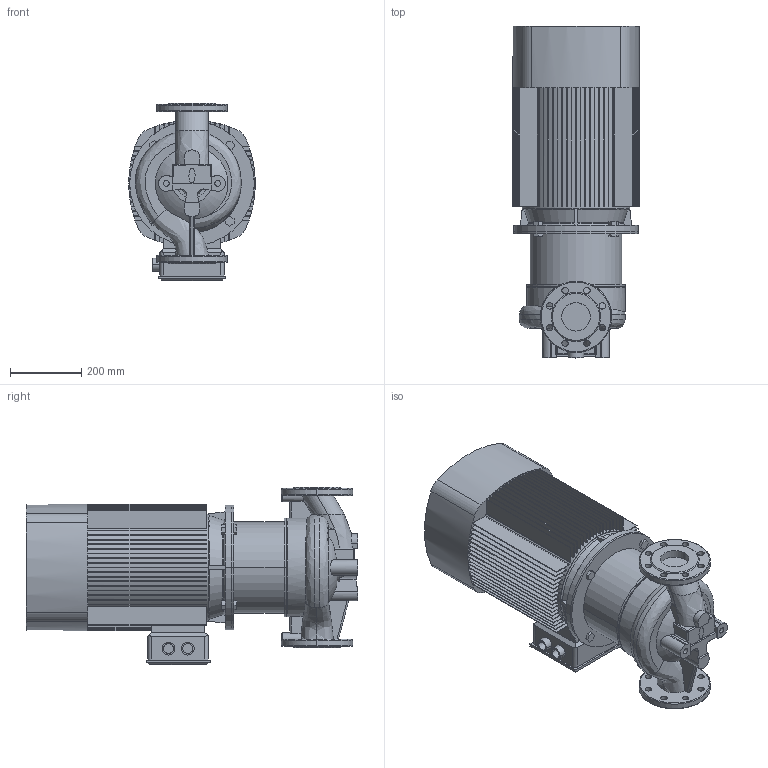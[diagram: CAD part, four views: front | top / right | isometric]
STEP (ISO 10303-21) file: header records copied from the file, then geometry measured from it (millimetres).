
FILE_DESCRIPTION (( 'STEP AP203' ), '1' );
FILE_NAME ('TD80-54G_2.STEP', '2022-05-01T13:14:44', ( '' ), ( '' ), 'SwSTEP 2.0', 'SolidWorks 2019', '' );
FILE_SCHEMA (( 'CONFIG_CONTROL_DESIGN' ));
Length unit declared in the file: millimetre
Products named in the file (4): ED_B5_YE2-180M-2 (22); TD80-54G_2; Fon_80_TD80-54G_2; Pr_ch 80_TD80-54G_2
Assembly tree (3 placements, depth 2):
  TD80-54G_2
    Pr_ch 80_TD80-54G_2
    Fon_80_TD80-54G_2
    ED_B5_YE2-180M-2 (22)
Bounding box: 355 x 932 x 498 mm (x, y, z)
Volume: 64587816.6 mm3; surface area: 3332473.4 mm2
Topology: 13 solids, 15 shells, 740 faces, 2003 edges, 1324 vertices
Faces by surface type: plane 506, cylinder 158, torus 29, bspline 28, cone 17, sphere 2
Entity records: 30943 total; most frequent: CARTESIAN_POINT 11628, ORIENTED_EDGE 4002, DIRECTION 3924, EDGE_CURVE 2001, AXIS2_PLACEMENT_3D 1368, VERTEX_POINT 1324, LINE 1188, VECTOR 1188
